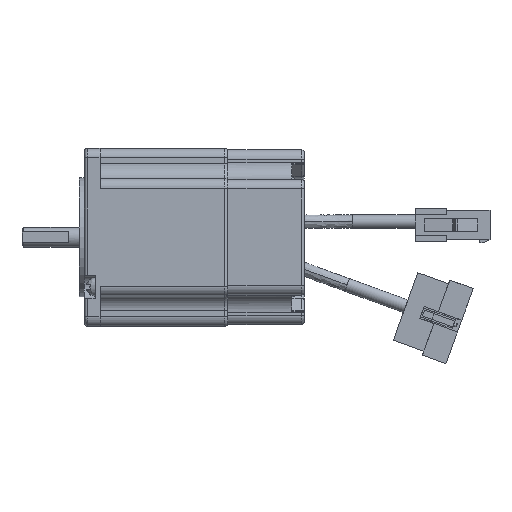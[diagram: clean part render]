
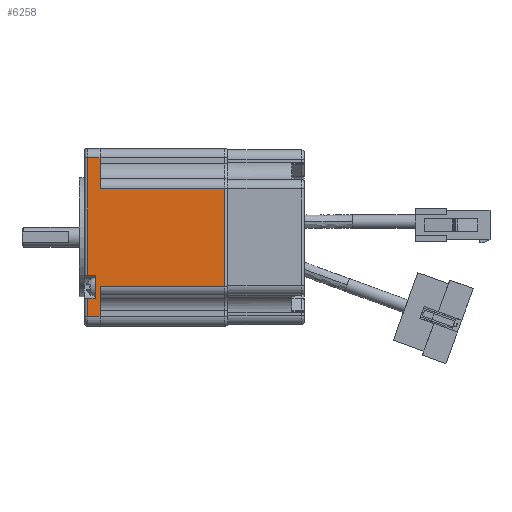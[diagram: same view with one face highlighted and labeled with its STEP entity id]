
A CAD part, front view. The second image highlights one B-rep face of the part: STEP entity #6258.
In plain terms, the highlighted planar face has unit normal (0, -1, 0) as drawn and (0, 1, 0) by its records, which use the part's own axes.
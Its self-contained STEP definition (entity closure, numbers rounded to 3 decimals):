
#55 = VERTEX_POINT ( 'NONE', #11147 ) ;
#109 = EDGE_CURVE ( 'NONE', #9145, #3766, #13243, .T. ) ;
#525 = ORIENTED_EDGE ( 'NONE', *, *, #811, .T. ) ;
#811 = EDGE_CURVE ( 'NONE', #12671, #9145, #11064, .T. ) ;
#1079 = EDGE_CURVE ( 'NONE', #12983, #7706, #10020, .T. ) ;
#1164 = DIRECTION ( 'NONE',  ( 1., 0., 0. ) ) ;
#1515 = ORIENTED_EDGE ( 'NONE', *, *, #17360, .T. ) ;
#2452 = EDGE_LOOP ( 'NONE', ( #19017, #19631, #5988, #12035, #12241, #5231, #6609, #14573, #25689, #525, #18358, #1515 ) ) ;
#2590 = EDGE_CURVE ( 'NONE', #10989, #16251, #15339, .T. ) ;
#3240 = LINE ( 'NONE', #17538, #19743 ) ;
#3359 = VERTEX_POINT ( 'NONE', #25007 ) ;
#3766 = VERTEX_POINT ( 'NONE', #14000 ) ;
#3988 = EDGE_CURVE ( 'NONE', #22369, #10989, #19826, .T. ) ;
#4026 = VECTOR ( 'NONE', #7145, 1000. ) ;
#5231 = ORIENTED_EDGE ( 'NONE', *, *, #14950, .T. ) ;
#5988 = ORIENTED_EDGE ( 'NONE', *, *, #9573, .T. ) ;
#6258 = ADVANCED_FACE ( 'NONE', ( #24654 ), #12839, .T. ) ;
#6359 = VECTOR ( 'NONE', #11590, 1000. ) ;
#6609 = ORIENTED_EDGE ( 'NONE', *, *, #8608, .T. ) ;
#7052 = DIRECTION ( 'NONE',  ( -1., 0., 0. ) ) ;
#7067 = LINE ( 'NONE', #13852, #6359 ) ;
#7092 = CARTESIAN_POINT ( 'NONE',  ( 7.981, -21.243, 42. ) ) ;
#7145 = DIRECTION ( 'NONE',  ( 0., 0., 1. ) ) ;
#7228 = CARTESIAN_POINT ( 'NONE',  ( 20.711, -21.243, 42. ) ) ;
#7248 = VECTOR ( 'NONE', #9778, 1000. ) ;
#7293 = CARTESIAN_POINT ( 'NONE',  ( 17.711, -21.243, 46. ) ) ;
#7600 = CARTESIAN_POINT ( 'NONE',  ( -33.289, -21.243, 42. ) ) ;
#7706 = VERTEX_POINT ( 'NONE', #14019 ) ;
#8608 = EDGE_CURVE ( 'NONE', #3359, #55, #27463, .T. ) ;
#9008 = CARTESIAN_POINT ( 'NONE',  ( -23.559, -21.243, 42. ) ) ;
#9145 = VERTEX_POINT ( 'NONE', #7293 ) ;
#9250 = CARTESIAN_POINT ( 'NONE',  ( -23.559, -21.243, 0. ) ) ;
#9573 = EDGE_CURVE ( 'NONE', #21145, #22369, #18138, .T. ) ;
#9778 = DIRECTION ( 'NONE',  ( 0., 0., -1. ) ) ;
#9899 = CARTESIAN_POINT ( 'NONE',  ( 20.711, -21.243, 43.5 ) ) ;
#10020 = LINE ( 'NONE', #7092, #4026 ) ;
#10182 = CARTESIAN_POINT ( 'NONE',  ( 17.711, -21.243, 0. ) ) ;
#10989 = VERTEX_POINT ( 'NONE', #7600 ) ;
#11064 = LINE ( 'NONE', #23204, #21501 ) ;
#11147 = CARTESIAN_POINT ( 'NONE',  ( 4.411, -21.243, 43.5 ) ) ;
#11590 = DIRECTION ( 'NONE',  ( 0., 0., 1. ) ) ;
#12035 = ORIENTED_EDGE ( 'NONE', *, *, #3988, .T. ) ;
#12241 = ORIENTED_EDGE ( 'NONE', *, *, #2590, .T. ) ;
#12647 = DIRECTION ( 'NONE',  ( 0., 0., 1. ) ) ;
#12671 = VERTEX_POINT ( 'NONE', #13972 ) ;
#12690 = DIRECTION ( 'NONE',  ( 0., 1., 0. ) ) ;
#12839 = PLANE ( 'NONE',  #25108 ) ;
#12983 = VERTEX_POINT ( 'NONE', #22881 ) ;
#13243 = LINE ( 'NONE', #10182, #7248 ) ;
#13326 = CARTESIAN_POINT ( 'NONE',  ( 20.711, -21.243, 0. ) ) ;
#13740 = LINE ( 'NONE', #9899, #19682 ) ;
#13852 = CARTESIAN_POINT ( 'NONE',  ( 11.811, -21.243, 0. ) ) ;
#13972 = CARTESIAN_POINT ( 'NONE',  ( 11.811, -21.243, 46. ) ) ;
#14000 = CARTESIAN_POINT ( 'NONE',  ( 17.711, -21.243, 42. ) ) ;
#14019 = CARTESIAN_POINT ( 'NONE',  ( 7.981, -21.243, 42. ) ) ;
#14301 = DIRECTION ( 'NONE',  ( 0., 0., 1. ) ) ;
#14573 = ORIENTED_EDGE ( 'NONE', *, *, #28163, .T. ) ;
#14736 = VECTOR ( 'NONE', #1164, 1000. ) ;
#14788 = DIRECTION ( 'NONE',  ( 0., 0., 1. ) ) ;
#14950 = EDGE_CURVE ( 'NONE', #16251, #3359, #21325, .T. ) ;
#15014 = CARTESIAN_POINT ( 'NONE',  ( -33.289, -21.243, 0. ) ) ;
#15339 = LINE ( 'NONE', #15014, #20526 ) ;
#15818 = CARTESIAN_POINT ( 'NONE',  ( 20.711, -21.243, 2. ) ) ;
#16041 = VECTOR ( 'NONE', #21290, 1000. ) ;
#16251 = VERTEX_POINT ( 'NONE', #24860 ) ;
#16739 = VECTOR ( 'NONE', #14301, 1000. ) ;
#17337 = DIRECTION ( 'NONE',  ( -1., 0., 0. ) ) ;
#17360 = EDGE_CURVE ( 'NONE', #3766, #7706, #3240, .T. ) ;
#17538 = CARTESIAN_POINT ( 'NONE',  ( 20.711, -21.243, 42. ) ) ;
#17578 = CARTESIAN_POINT ( 'NONE',  ( -23.559, -21.243, 2. ) ) ;
#18138 = LINE ( 'NONE', #9250, #16739 ) ;
#18358 = ORIENTED_EDGE ( 'NONE', *, *, #109, .T. ) ;
#18508 = EDGE_CURVE ( 'NONE', #21001, #12671, #7067, .T. ) ;
#19017 = ORIENTED_EDGE ( 'NONE', *, *, #1079, .F. ) ;
#19213 = DIRECTION ( 'NONE',  ( 1., 0., 0. ) ) ;
#19631 = ORIENTED_EDGE ( 'NONE', *, *, #21947, .T. ) ;
#19682 = VECTOR ( 'NONE', #23042, 1000. ) ;
#19743 = VECTOR ( 'NONE', #17337, 1000. ) ;
#19826 = LINE ( 'NONE', #7228, #25458 ) ;
#20526 = VECTOR ( 'NONE', #14788, 1000. ) ;
#21001 = VERTEX_POINT ( 'NONE', #27760 ) ;
#21145 = VERTEX_POINT ( 'NONE', #17578 ) ;
#21290 = DIRECTION ( 'NONE',  ( 0., 0., -1. ) ) ;
#21325 = LINE ( 'NONE', #27590, #14736 ) ;
#21501 = VECTOR ( 'NONE', #19213, 1000. ) ;
#21690 = CARTESIAN_POINT ( 'NONE',  ( 4.411, -21.243, 0. ) ) ;
#21947 = EDGE_CURVE ( 'NONE', #12983, #21145, #27516, .T. ) ;
#22369 = VERTEX_POINT ( 'NONE', #9008 ) ;
#22422 = DIRECTION ( 'NONE',  ( -1., 0., 0. ) ) ;
#22881 = CARTESIAN_POINT ( 'NONE',  ( 7.981, -21.243, 2. ) ) ;
#23042 = DIRECTION ( 'NONE',  ( 1., 0., 0. ) ) ;
#23204 = CARTESIAN_POINT ( 'NONE',  ( 20.711, -21.243, 46. ) ) ;
#24654 = FACE_OUTER_BOUND ( 'NONE', #2452, .T. ) ;
#24860 = CARTESIAN_POINT ( 'NONE',  ( -33.289, -21.243, 46. ) ) ;
#25007 = CARTESIAN_POINT ( 'NONE',  ( 4.411, -21.243, 46. ) ) ;
#25108 = AXIS2_PLACEMENT_3D ( 'NONE', #13326, #12690, #12647 ) ;
#25458 = VECTOR ( 'NONE', #7052, 1000. ) ;
#25689 = ORIENTED_EDGE ( 'NONE', *, *, #18508, .T. ) ;
#26211 = VECTOR ( 'NONE', #22422, 1000. ) ;
#27463 = LINE ( 'NONE', #21690, #16041 ) ;
#27516 = LINE ( 'NONE', #15818, #26211 ) ;
#27590 = CARTESIAN_POINT ( 'NONE',  ( 20.711, -21.243, 46. ) ) ;
#27760 = CARTESIAN_POINT ( 'NONE',  ( 11.811, -21.243, 43.5 ) ) ;
#28163 = EDGE_CURVE ( 'NONE', #55, #21001, #13740, .T. ) ;
